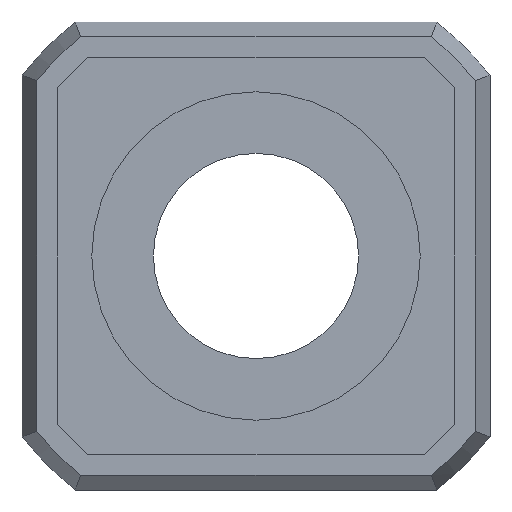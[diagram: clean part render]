
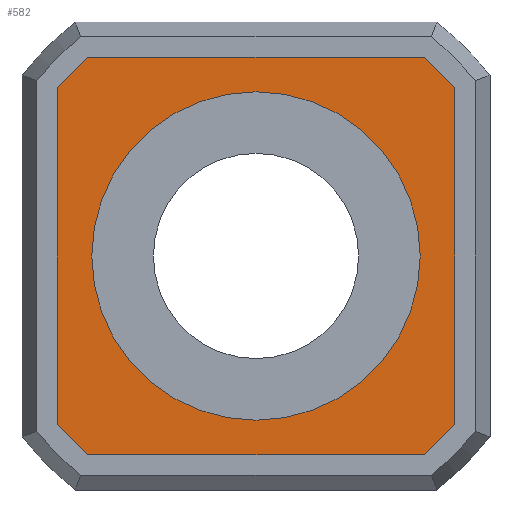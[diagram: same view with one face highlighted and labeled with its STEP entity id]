
A CAD part, front view. The second image highlights one B-rep face of the part: STEP entity #582.
In plain terms, the highlighted planar face has unit normal (0, -1, 0).
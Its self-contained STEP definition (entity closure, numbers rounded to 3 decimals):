
#33=FACE_BOUND('',#127,.T.);
#46=PLANE('',#669);
#88=FACE_OUTER_BOUND('',#126,.T.);
#126=EDGE_LOOP('',(#500,#501,#502,#503,#504,#505,#506,#507));
#127=EDGE_LOOP('',(#508));
#145=LINE('',#914,#181);
#150=LINE('',#923,#186);
#156=LINE('',#951,#192);
#162=LINE('',#979,#198);
#181=VECTOR('',#734,10.);
#186=VECTOR('',#741,10.);
#192=VECTOR('',#763,10.);
#198=VECTOR('',#785,10.);
#216=CIRCLE('',#625,3.75);
#219=CIRCLE('',#631,6.336);
#224=CIRCLE('',#641,6.336);
#228=CIRCLE('',#649,6.336);
#232=CIRCLE('',#658,6.336);
#248=VERTEX_POINT('',#878);
#253=VERTEX_POINT('',#896);
#255=VERTEX_POINT('',#899);
#259=VERTEX_POINT('',#913);
#262=VERTEX_POINT('',#921);
#266=VERTEX_POINT('',#935);
#270=VERTEX_POINT('',#949);
#274=VERTEX_POINT('',#963);
#278=VERTEX_POINT('',#977);
#304=EDGE_CURVE('',#248,#248,#216,.T.);
#310=EDGE_CURVE('',#255,#253,#219,.T.);
#316=EDGE_CURVE('',#259,#255,#145,.T.);
#321=EDGE_CURVE('',#253,#262,#150,.T.);
#327=EDGE_CURVE('',#262,#266,#224,.T.);
#333=EDGE_CURVE('',#266,#270,#156,.T.);
#339=EDGE_CURVE('',#270,#274,#228,.T.);
#345=EDGE_CURVE('',#274,#278,#162,.T.);
#351=EDGE_CURVE('',#278,#259,#232,.T.);
#500=ORIENTED_EDGE('',*,*,#310,.T.);
#501=ORIENTED_EDGE('',*,*,#321,.T.);
#502=ORIENTED_EDGE('',*,*,#327,.T.);
#503=ORIENTED_EDGE('',*,*,#333,.T.);
#504=ORIENTED_EDGE('',*,*,#339,.T.);
#505=ORIENTED_EDGE('',*,*,#345,.T.);
#506=ORIENTED_EDGE('',*,*,#351,.T.);
#507=ORIENTED_EDGE('',*,*,#316,.T.);
#508=ORIENTED_EDGE('',*,*,#304,.T.);
#582=ADVANCED_FACE('',(#88,#33),#46,.T.);
#625=AXIS2_PLACEMENT_3D('',#880,#710,#711);
#631=AXIS2_PLACEMENT_3D('',#900,#723,#724);
#641=AXIS2_PLACEMENT_3D('',#937,#753,#754);
#649=AXIS2_PLACEMENT_3D('',#965,#775,#776);
#658=AXIS2_PLACEMENT_3D('',#992,#799,#800);
#669=AXIS2_PLACEMENT_3D('',#1027,#830,#831);
#710=DIRECTION('center_axis',(0.,1.,0.));
#711=DIRECTION('ref_axis',(-1.,0.,0.));
#723=DIRECTION('center_axis',(0.,-1.,0.));
#724=DIRECTION('ref_axis',(0.792,0.,0.611));
#734=DIRECTION('',(0.,0.,-1.));
#741=DIRECTION('',(1.,0.,0.));
#753=DIRECTION('center_axis',(0.,-1.,0.));
#754=DIRECTION('ref_axis',(-0.611,0.,0.792));
#763=DIRECTION('',(0.,0.,1.));
#775=DIRECTION('center_axis',(0.,-1.,0.));
#776=DIRECTION('ref_axis',(-1.,0.,0.));
#785=DIRECTION('',(-1.,0.,0.));
#799=DIRECTION('center_axis',(0.,-1.,0.));
#800=DIRECTION('ref_axis',(0.611,0.,-0.792));
#830=DIRECTION('center_axis',(0.,-1.,0.));
#831=DIRECTION('ref_axis',(0.,0.,-1.));
#878=CARTESIAN_POINT('',(3.75,-4.,0.));
#880=CARTESIAN_POINT('Origin',(0.,-4.,0.));
#896=CARTESIAN_POINT('',(-4.094,-4.,-4.836));
#899=CARTESIAN_POINT('',(-4.836,-4.,-4.094));
#900=CARTESIAN_POINT('Origin',(0.,-4.,0.));
#913=CARTESIAN_POINT('',(-4.836,-4.,4.094));
#914=CARTESIAN_POINT('',(-4.836,-4.,-2.199));
#921=CARTESIAN_POINT('',(4.094,-4.,-4.836));
#923=CARTESIAN_POINT('',(2.199,-4.,-4.836));
#935=CARTESIAN_POINT('',(4.836,-4.,-4.094));
#937=CARTESIAN_POINT('Origin',(0.,-4.,0.));
#949=CARTESIAN_POINT('',(4.836,-4.,4.094));
#951=CARTESIAN_POINT('',(4.836,-4.,2.199));
#963=CARTESIAN_POINT('',(4.094,-4.,4.836));
#965=CARTESIAN_POINT('Origin',(0.,-4.,0.));
#977=CARTESIAN_POINT('',(-4.094,-4.,4.836));
#979=CARTESIAN_POINT('',(-2.199,-4.,4.836));
#992=CARTESIAN_POINT('Origin',(0.,-4.,0.));
#1027=CARTESIAN_POINT('Origin',(0.,-4.,0.));
